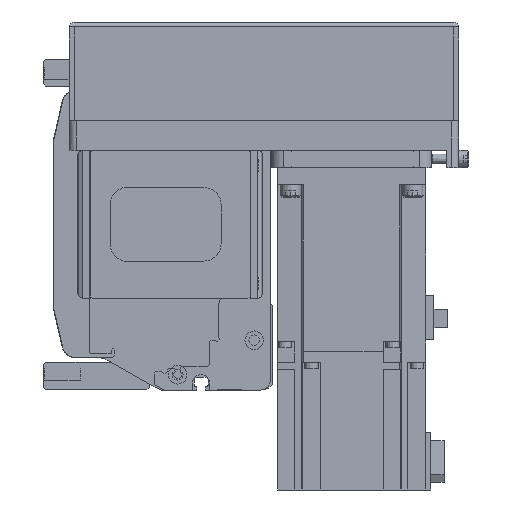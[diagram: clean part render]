
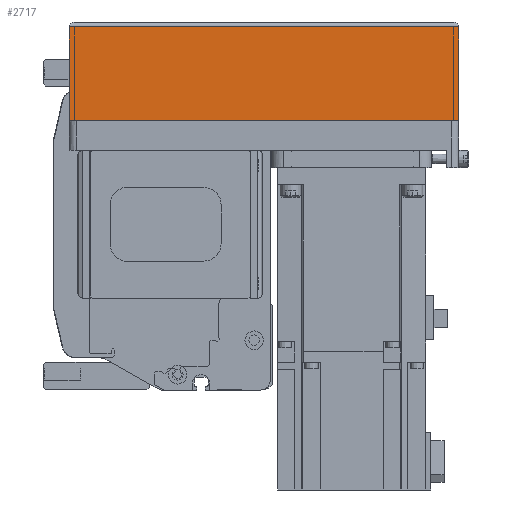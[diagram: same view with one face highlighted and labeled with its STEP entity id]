
A CAD part, left-side view. The second image highlights one B-rep face of the part: STEP entity #2717.
In plain terms, the highlighted planar face has unit normal (-1, 0, 0) as drawn and (0, -1, 0) by its records, which use the part's own axes.
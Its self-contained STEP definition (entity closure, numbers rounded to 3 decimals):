
#2717 = ADVANCED_FACE( '', ( #6060 ), #6061, .T. );
#6060 = FACE_OUTER_BOUND( '', #9998, .T. );
#6061 = PLANE( '', #9999 );
#9998 = EDGE_LOOP( '', ( #17669, #17670, #17671, #17672 ) );
#9999 = AXIS2_PLACEMENT_3D( '', #17673, #17674, #17675 );
#17669 = ORIENTED_EDGE( '', *, *, #24078, .F. );
#17670 = ORIENTED_EDGE( '', *, *, #23187, .F. );
#17671 = ORIENTED_EDGE( '', *, *, #24524, .T. );
#17672 = ORIENTED_EDGE( '', *, *, #24607, .T. );
#17673 = CARTESIAN_POINT( '', ( -158., -39., -12.1 ) );
#17674 = DIRECTION( '', ( 0., -1., 0. ) );
#17675 = DIRECTION( '', ( 0., 0., -1. ) );
#23187 = EDGE_CURVE( '', #28127, #28128, #28129, .T. );
#24078 = EDGE_CURVE( '', #28128, #29481, #29506, .T. );
#24524 = EDGE_CURVE( '', #28127, #28869, #30151, .T. );
#24607 = EDGE_CURVE( '', #28869, #29481, #30266, .T. );
#28127 = VERTEX_POINT( '', #35621 );
#28128 = VERTEX_POINT( '', #35622 );
#28129 = LINE( '', #35623, #35624 );
#28869 = VERTEX_POINT( '', #36818 );
#29481 = VERTEX_POINT( '', #37782 );
#29506 = LINE( '', #37817, #37818 );
#30151 = LINE( '', #38767, #38768 );
#30266 = LINE( '', #38922, #38923 );
#35621 = CARTESIAN_POINT( '', ( -158., -39., -12.1 ) );
#35622 = CARTESIAN_POINT( '', ( 0., -39., -12.1 ) );
#35623 = CARTESIAN_POINT( '', ( -158., -39., -12.1 ) );
#35624 = VECTOR( '', #42858, 1000. );
#36818 = CARTESIAN_POINT( '', ( -158., -39., -50. ) );
#37782 = CARTESIAN_POINT( '', ( 0., -39., -50. ) );
#37817 = CARTESIAN_POINT( '', ( 0., -39., -12.1 ) );
#37818 = VECTOR( '', #43939, 1000. );
#38767 = CARTESIAN_POINT( '', ( -158., -39., -12.1 ) );
#38768 = VECTOR( '', #44499, 1000. );
#38922 = CARTESIAN_POINT( '', ( -158., -39., -50. ) );
#38923 = VECTOR( '', #44587, 1000. );
#42858 = DIRECTION( '', ( 1., 0., 0. ) );
#43939 = DIRECTION( '', ( 0., 0., -1. ) );
#44499 = DIRECTION( '', ( 0., 0., -1. ) );
#44587 = DIRECTION( '', ( 1., 0., 0. ) );
